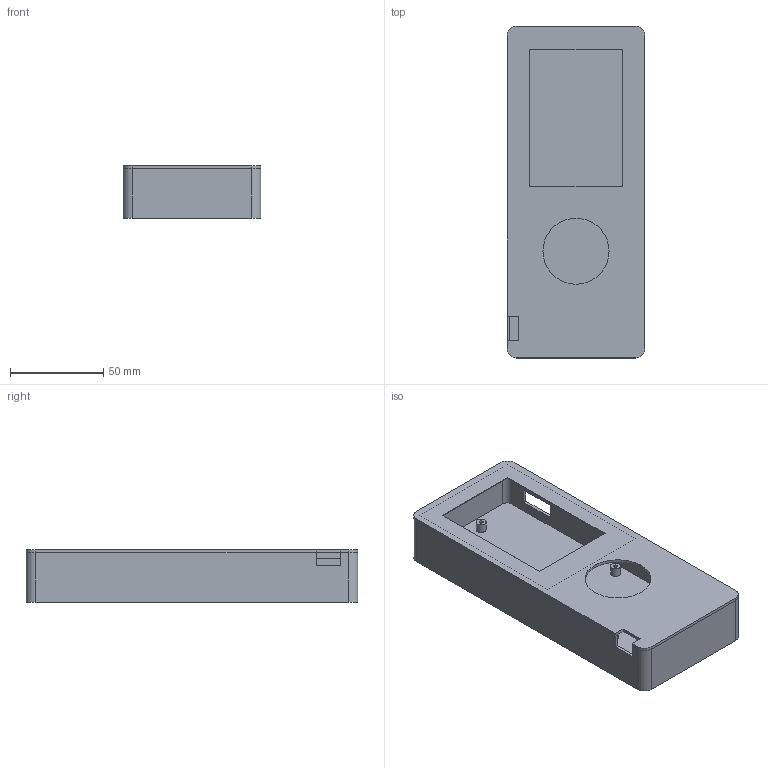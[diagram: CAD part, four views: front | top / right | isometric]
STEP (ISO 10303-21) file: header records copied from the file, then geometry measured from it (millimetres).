
FILE_DESCRIPTION(('Open CASCADE Model'),'2;1');
FILE_NAME('Open CASCADE Shape Model','2026-09-22T06:57:11',('Author'),( 'Open CASCADE'),'Open CASCADE STEP processor 7.9','Open CASCADE 7.9' ,'Unknown');
FILE_SCHEMA(('AUTOMOTIVE_DESIGN { 1 0 10303 214 1 1 1 1 }'));
Length unit declared in the file: millimetre
Products named in the file (3): Harmony_M6_fit_prototype; tray; front
Assembly tree (2 placements, depth 2):
  Harmony_M6_fit_prototype
    tray
    front
Bounding box: 74 x 178 x 28 mm (x, y, z)
Volume: 51943.7 mm3; surface area: 72649.1 mm2
Topology: 2 solids, 2 shells, 86 faces, 219 edges, 146 vertices
Faces by surface type: plane 57, cylinder 29
Full cylindrical faces by diameter (mm): 2.1 x4, 5.4 x4, 35.4 x1
Entity records: 5481 total; most frequent: CARTESIAN_POINT 1149, DIRECTION 756, ORIENTED_EDGE 438, PCURVE 438, DEFINITIONAL_REPRESENTATION 438, LINE 428, VECTOR 428, EDGE_CURVE 219
